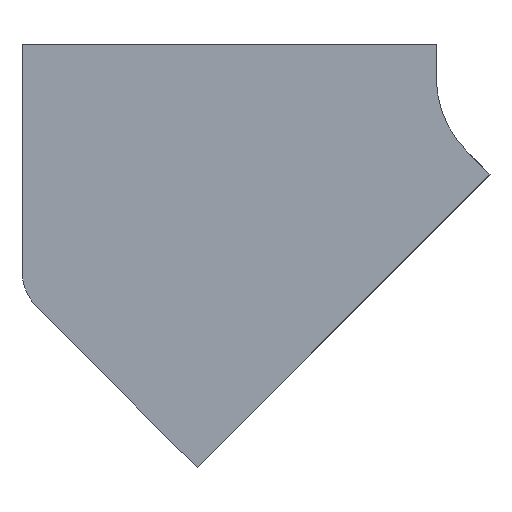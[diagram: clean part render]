
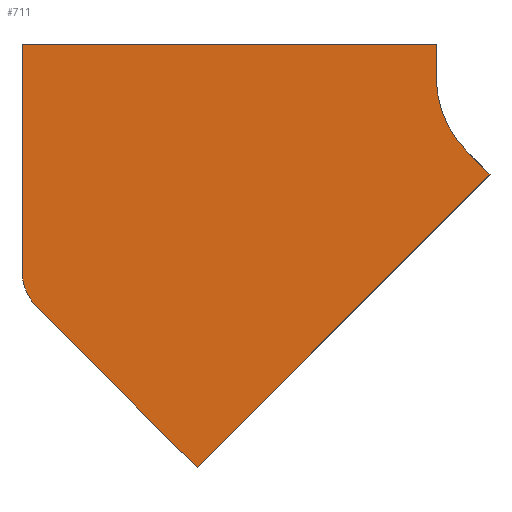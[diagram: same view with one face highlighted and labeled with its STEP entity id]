
A CAD part, front view. The second image highlights one B-rep face of the part: STEP entity #711.
In plain terms, the highlighted planar face has unit normal (0, -1, 0).
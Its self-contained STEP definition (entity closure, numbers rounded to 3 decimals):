
#23 = DIRECTION ( 'NONE',  ( 0.707, 0., -0.707 ) ) ;
#34 = ORIENTED_EDGE ( 'NONE', *, *, #1661, .F. ) ;
#37 = DIRECTION ( 'NONE',  ( -0.707, 0., 0.707 ) ) ;
#120 = EDGE_CURVE ( 'NONE', #377, #1209, #991, .T. ) ;
#125 = LINE ( 'NONE', #148, #1126 ) ;
#133 = DIRECTION ( 'NONE',  ( 0., 0., 1. ) ) ;
#148 = CARTESIAN_POINT ( 'NONE',  ( -88.388, 0., -88.388 ) ) ;
#234 = CARTESIAN_POINT ( 'NONE',  ( -625., 0., -232.995 ) ) ;
#252 = DIRECTION ( 'NONE',  ( 0., 1., 0. ) ) ;
#287 = FACE_OUTER_BOUND ( 'NONE', #1276, .T. ) ;
#353 = VERTEX_POINT ( 'NONE', #1564 ) ;
#377 = VERTEX_POINT ( 'NONE', #809 ) ;
#391 = VECTOR ( 'NONE', #37, 1000. ) ;
#417 = EDGE_CURVE ( 'NONE', #353, #900, #1203, .T. ) ;
#421 = DIRECTION ( 'NONE',  ( 0., -1., 0. ) ) ;
#453 = ORIENTED_EDGE ( 'NONE', *, *, #555, .F. ) ;
#465 = DIRECTION ( 'NONE',  ( -0.707, 0., -0.707 ) ) ;
#504 = ORIENTED_EDGE ( 'NONE', *, *, #1224, .F. ) ;
#530 = VERTEX_POINT ( 'NONE', #1018 ) ;
#539 = ORIENTED_EDGE ( 'NONE', *, *, #891, .F. ) ;
#541 = CARTESIAN_POINT ( 'NONE',  ( -606.694, 0., -277.189 ) ) ;
#555 = EDGE_CURVE ( 'NONE', #873, #530, #855, .T. ) ;
#589 = CARTESIAN_POINT ( 'NONE',  ( -60.104, 0., -116.673 ) ) ;
#603 = CARTESIAN_POINT ( 'NONE',  ( -625., 0., 40. ) ) ;
#702 = CIRCLE ( 'NONE', #1658, 125. ) ;
#711 = ADVANCED_FACE ( 'NONE', ( #287 ), #1199, .T. ) ;
#726 = DIRECTION ( 'NONE',  ( 0., 0., -1. ) ) ;
#764 = CARTESIAN_POINT ( 'NONE',  ( -562.5, 0., -232.995 ) ) ;
#801 = AXIS2_PLACEMENT_3D ( 'NONE', #1326, #421, #1452 ) ;
#809 = CARTESIAN_POINT ( 'NONE',  ( -625., 0., -232.995 ) ) ;
#826 = CARTESIAN_POINT ( 'NONE',  ( -88.388, 0., -88.388 ) ) ;
#836 = CARTESIAN_POINT ( 'NONE',  ( -413.657, 0., -470.226 ) ) ;
#848 = EDGE_CURVE ( 'NONE', #900, #377, #1183, .T. ) ;
#855 = LINE ( 'NONE', #1378, #879 ) ;
#872 = LINE ( 'NONE', #603, #1139 ) ;
#873 = VERTEX_POINT ( 'NONE', #1060 ) ;
#879 = VECTOR ( 'NONE', #726, 1000. ) ;
#891 = EDGE_CURVE ( 'NONE', #1560, #1080, #125, .T. ) ;
#900 = VERTEX_POINT ( 'NONE', #541 ) ;
#926 = ORIENTED_EDGE ( 'NONE', *, *, #848, .F. ) ;
#950 = EDGE_CURVE ( 'NONE', #1209, #873, #872, .T. ) ;
#972 = ORIENTED_EDGE ( 'NONE', *, *, #417, .F. ) ;
#991 = LINE ( 'NONE', #234, #1152 ) ;
#1006 = VECTOR ( 'NONE', #465, 1000. ) ;
#1018 = CARTESIAN_POINT ( 'NONE',  ( -125., 0., 0. ) ) ;
#1048 = AXIS2_PLACEMENT_3D ( 'NONE', #764, #252, #133 ) ;
#1060 = CARTESIAN_POINT ( 'NONE',  ( -125., 0., 40. ) ) ;
#1073 = DIRECTION ( 'NONE',  ( 0., -1., 0. ) ) ;
#1080 = VERTEX_POINT ( 'NONE', #1457 ) ;
#1125 = CARTESIAN_POINT ( 'NONE',  ( -625., 0., 40. ) ) ;
#1126 = VECTOR ( 'NONE', #23, 1000. ) ;
#1139 = VECTOR ( 'NONE', #1514, 1000. ) ;
#1152 = VECTOR ( 'NONE', #1644, 1000. ) ;
#1183 = CIRCLE ( 'NONE', #1048, 62.5 ) ;
#1199 = PLANE ( 'NONE',  #801 ) ;
#1203 = LINE ( 'NONE', #836, #391 ) ;
#1209 = VERTEX_POINT ( 'NONE', #1125 ) ;
#1224 = EDGE_CURVE ( 'NONE', #1080, #353, #1353, .T. ) ;
#1276 = EDGE_LOOP ( 'NONE', ( #1388, #1622, #926, #972, #504, #539, #34, #453 ) ) ;
#1326 = CARTESIAN_POINT ( 'NONE',  ( 0., 0., 0. ) ) ;
#1328 = CARTESIAN_POINT ( 'NONE',  ( 0., 0., 0. ) ) ;
#1353 = LINE ( 'NONE', #589, #1006 ) ;
#1378 = CARTESIAN_POINT ( 'NONE',  ( -125., 0., 40. ) ) ;
#1388 = ORIENTED_EDGE ( 'NONE', *, *, #950, .F. ) ;
#1452 = DIRECTION ( 'NONE',  ( 0., 0., -1. ) ) ;
#1457 = CARTESIAN_POINT ( 'NONE',  ( -60.104, 0., -116.673 ) ) ;
#1460 = DIRECTION ( 'NONE',  ( 0., 0., -1. ) ) ;
#1514 = DIRECTION ( 'NONE',  ( 1., 0., 0. ) ) ;
#1560 = VERTEX_POINT ( 'NONE', #826 ) ;
#1564 = CARTESIAN_POINT ( 'NONE',  ( -413.657, 0., -470.226 ) ) ;
#1622 = ORIENTED_EDGE ( 'NONE', *, *, #120, .F. ) ;
#1644 = DIRECTION ( 'NONE',  ( 0., 0., 1. ) ) ;
#1658 = AXIS2_PLACEMENT_3D ( 'NONE', #1328, #1073, #1460 ) ;
#1661 = EDGE_CURVE ( 'NONE', #530, #1560, #702, .T. ) ;
